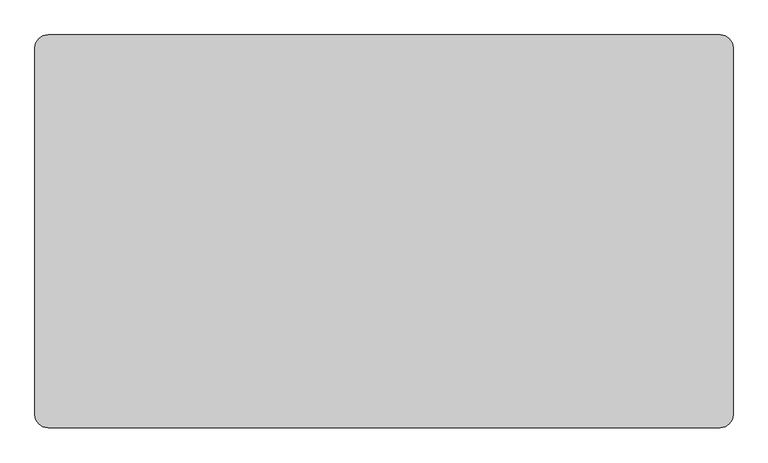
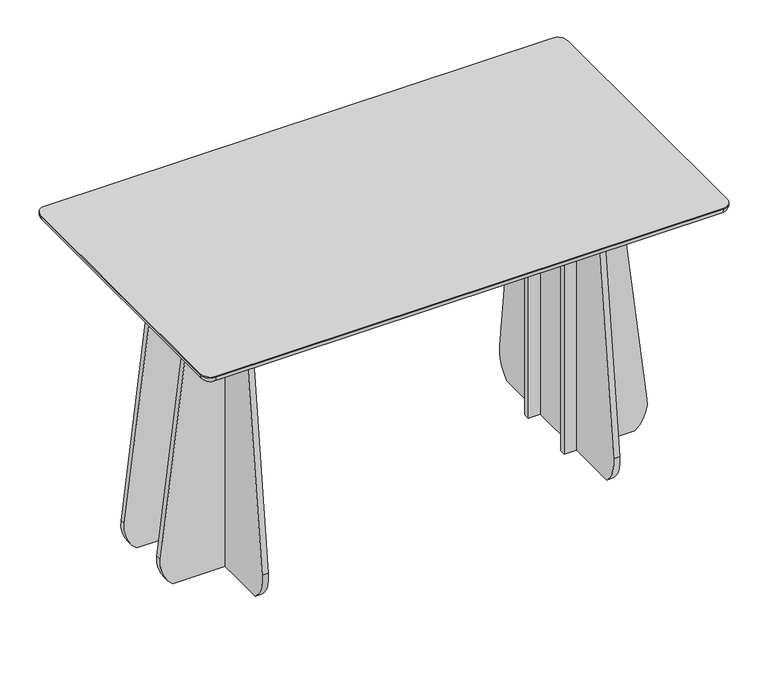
"""IFC4 building model written with IfcOpenShell, lengths in millimetres: furniture geometry, Lundbergs Möbler - Funghi Largo - Table - Rectangular - 160x90 - H90 : Lundbergs Möbler - Funghi Largo - Table - Rectangular - 160x90 - H90."""

from ifc_helpers import new_model, si_unit, point, frame, frame_2d, origin, place, context, project, spatial, polyline, circle_curve, ellipse_curve, trimmed, segment, composite_curve, outline, extrude, source, transform, mapped, element, save
from ifc_brep_helpers import plane_surface, cylinder_surface, revolved_surface, advanced_brep


def furniture_2b31757b(model_context):
    return source(origin(), model_context, "Body", "SolidModel", [
        advanced_brep(
        [(-780.0, 420.0, 876.0), (-800.0, 420.0, 896.0), (-770.0, 450.0, 896.0), (-770.0, 430.0, 876.0), (-780.0, -420.0, 876.0), (-800.0, -420.0, 896.0), (-770.0, -430.0, 876.0), (-770.0, -450.0, 896.0), (770.0, -430.0, 876.0), (770.0, -450.0, 896.0), (780.0, -420.0, 876.0), (800.0, -420.0, 896.0), (780.0, 420.0, 876.0), (800.0, 420.0, 896.0), (770.0, 430.0, 876.0), (770.0, 450.0, 896.0), (770.0, 450.0, 900.0), (-770.0, 450.0, 900.0), (-800.0, 420.0, 900.0), (-800.0, -420.0, 900.0), (-770.0, -450.0, 900.0), (770.0, -450.0, 900.0), (800.0, -420.0, 900.0), (800.0, 420.0, 900.0)],
        [
            (0, 1, circle_curve(frame((-780.0, 420.0, 896.0), z_axis=(0.0, 1.0, 0.0), x_axis=(1.0, 0.0, 0.0)), 20.0)),
            (1, 2, circle_curve(frame((-770.0, 420.0, 896.0), z_axis=(0.0, 0.0, -1.0), x_axis=(0.0, 1.0, 0.0)), 30.0)),
            (2, 3, circle_curve(frame((-770.0, 430.0, 896.0), z_axis=(-1.0, 0.0, 0.0), x_axis=(0.0, -1.0, 0.0)), 20.0)),
            (3, 0, circle_curve(frame((-770.0, 420.0, 876.0), z_axis=(0.0, 0.0, 1.0), x_axis=(0.0, 1.0, 0.0)), 10.0)),
            (0, 4),
            (4, 5, circle_curve(frame((-780.0, -420.0, 896.0), z_axis=(0.0, 1.0, 0.0), x_axis=(1.0, 0.0, 0.0)), 20.0)),
            (5, 1),
            (4, 6, circle_curve(frame((-770.0, -420.0, 876.0), z_axis=(0.0, 0.0, 1.0), x_axis=(-1.0, 0.0, 0.0)), 10.0)),
            (6, 7, circle_curve(frame((-770.0, -430.0, 896.0), z_axis=(-1.0, 0.0, 0.0), x_axis=(0.0, 1.0, 0.0)), 20.0)),
            (7, 5, circle_curve(frame((-770.0, -420.0, 896.0), z_axis=(0.0, 0.0, -1.0), x_axis=(-1.0, 0.0, 0.0)), 30.0)),
            (6, 8),
            (8, 9, circle_curve(frame((770.0, -430.0, 896.0), z_axis=(-1.0, 0.0, 0.0), x_axis=(0.0, 1.0, 0.0)), 20.0)),
            (9, 7),
            (8, 10, circle_curve(frame((770.0, -420.0, 876.0), z_axis=(0.0, 0.0, 1.0), x_axis=(0.0, -1.0, 0.0)), 10.0)),
            (10, 11, circle_curve(frame((780.0, -420.0, 896.0), z_axis=(0.0, -1.0, 0.0), x_axis=(-1.0, 0.0, 0.0)), 20.0)),
            (11, 9, circle_curve(frame((770.0, -420.0, 896.0), z_axis=(0.0, 0.0, -1.0), x_axis=(0.0, -1.0, 0.0)), 30.0)),
            (10, 12),
            (12, 13, circle_curve(frame((780.0, 420.0, 896.0), z_axis=(0.0, -1.0, 0.0), x_axis=(-1.0, 0.0, 0.0)), 20.0)),
            (13, 11),
            (12, 14, circle_curve(frame((770.0, 420.0, 876.0), z_axis=(0.0, 0.0, 1.0), x_axis=(1.0, 0.0, 0.0)), 10.0)),
            (14, 15, circle_curve(frame((770.0, 430.0, 896.0), z_axis=(1.0, 0.0, 0.0), x_axis=(0.0, -1.0, 0.0)), 20.0)),
            (15, 13, circle_curve(frame((770.0, 420.0, 896.0), z_axis=(0.0, 0.0, -1.0), x_axis=(1.0, 0.0, 0.0)), 30.0)),
            (2, 15),
            (14, 3),
            (16, 17),
            (17, 18, circle_curve(frame((-770.0, 420.0, 900.0), z_axis=(0.0, 0.0, 1.0), x_axis=(0.0, 1.0, 0.0)), 30.0)),
            (18, 19),
            (19, 20, circle_curve(frame((-770.0, -420.0, 900.0), z_axis=(0.0, 0.0, 1.0), x_axis=(0.0, 1.0, 0.0)), 30.0)),
            (20, 21),
            (21, 22, circle_curve(frame((770.0, -420.0, 900.0), z_axis=(0.0, 0.0, 1.0), x_axis=(0.0, 1.0, 0.0)), 30.0)),
            (22, 23),
            (23, 16, circle_curve(frame((770.0, 420.0, 900.0), z_axis=(0.0, 0.0, 1.0), x_axis=(0.0, 1.0, 0.0)), 30.0)),
            (16, 15),
            (2, 17),
            (1, 18),
            (5, 19),
            (7, 20),
            (9, 21),
            (11, 22),
            (13, 23),
        ],
        [
            revolved_surface(trimmed(ellipse_curve(frame((-770.0, 430.0, 896.0), z_axis=(1.0, 0.0, 0.0), x_axis=(0.0, -1.0, 0.0)), 20.0, 20.0), [point((-770.0, 430.0, 876.0))], [point((-770.0, 450.0, 896.0))], True, "CARTESIAN"), (-770.0, 420.0, 170.0), (0.0, 0.0, 1.0)),
            cylinder_surface(frame((-780.0, 420.0, 896.0), z_axis=(0.0, -1.0, 0.0), x_axis=(1.0, 0.0, 0.0)), 20.0),
            revolved_surface(trimmed(ellipse_curve(frame((-780.0, -420.0, 896.0), z_axis=(0.0, 1.0, 0.0), x_axis=(1.0, 0.0, 0.0)), 20.0, 20.0), [point((-780.0, -420.0, 876.0))], [point((-800.0, -420.0, 896.0))], True, "CARTESIAN"), (-770.0, -420.0, 170.0), (0.0, 0.0, 1.0)),
            cylinder_surface(frame((-770.0, -430.0, 896.0), z_axis=(1.0, 0.0, 0.0), x_axis=(0.0, 1.0, 0.0)), 20.0),
            revolved_surface(trimmed(ellipse_curve(frame((770.0, -430.0, 896.0), z_axis=(-1.0, 0.0, 0.0), x_axis=(0.0, 1.0, 0.0)), 20.0, 20.0), [point((770.0, -430.0, 876.0))], [point((770.0, -450.0, 896.0))], True, "CARTESIAN"), (770.0, -420.0, 170.0), (0.0, 0.0, 1.0)),
            cylinder_surface(frame((780.0, -420.0, 896.0), z_axis=(0.0, 1.0, 0.0), x_axis=(-1.0, 0.0, 0.0)), 20.0),
            revolved_surface(trimmed(ellipse_curve(frame((780.0, 420.0, 896.0), z_axis=(0.0, -1.0, 0.0), x_axis=(-1.0, 0.0, 0.0)), 20.0, 20.0), [point((780.0, 420.0, 876.0))], [point((800.0, 420.0, 896.0))], True, "CARTESIAN"), (770.0, 420.0, 170.0), (0.0, 0.0, 1.0)),
            cylinder_surface(frame((770.0, 430.0, 896.0), z_axis=(-1.0, 0.0, 0.0), x_axis=(0.0, -1.0, 0.0)), 20.0),
            plane_surface(frame((-770.0, 450.0, 900.0), z_axis=(0.0, 0.0, 1.0), x_axis=(-1.0, 0.0, 0.0))),
            plane_surface(frame((-770.0, 450.0, 876.0), z_axis=(0.0, 0.0, -1.0), x_axis=(1.0, 0.0, 0.0))),
            plane_surface(frame((770.0, 450.0, 900.0), z_axis=(0.0, 1.0, 0.0), x_axis=(0.0, 0.0, -1.0))),
            cylinder_surface(frame((-770.0, 420.0, 876.0), z_axis=(0.0, 0.0, 1.0), x_axis=(0.0, 1.0, 0.0)), 30.0),
            plane_surface(frame((-800.0, 420.0, 900.0), z_axis=(-1.0, 0.0, 0.0), x_axis=(0.0, 0.0, -1.0))),
            cylinder_surface(frame((-770.0, -420.0, 876.0), z_axis=(0.0, 0.0, 1.0), x_axis=(0.0, 1.0, 0.0)), 30.0),
            plane_surface(frame((-770.0, -450.0, 900.0), z_axis=(0.0, -1.0, 0.0), x_axis=(0.0, 0.0, -1.0))),
            cylinder_surface(frame((770.0, -420.0, 876.0), z_axis=(0.0, 0.0, 1.0), x_axis=(0.0, 1.0, 0.0)), 30.0),
            plane_surface(frame((800.0, -420.0, 900.0), z_axis=(1.0, 0.0, 0.0), x_axis=(0.0, 0.0, -1.0))),
            cylinder_surface(frame((770.0, 420.0, 876.0), z_axis=(0.0, 0.0, 1.0), x_axis=(0.0, 1.0, 0.0)), 30.0),
        ],
        [
            (0, [[1, 2, 3, 4]]),
            (1, [[-1, 5, 6, 7]]),
            (2, [[-6, 8, 9, 10]]),
            (3, [[-9, 11, 12, 13]]),
            (4, [[-12, 14, 15, 16]]),
            (5, [[-15, 17, 18, 19]]),
            (6, [[-18, 20, 21, 22]]),
            (7, [[-3, 23, -21, 24]]),
            (8, [[25, 26, 27, 28, 29, 30, 31, 32]]),
            (9, [[-4, -24, -20, -17, -14, -11, -8, -5]]),
            (10, [[-25, 33, -23, 34]]),
            (11, [[-26, -34, -2, 35]]),
            (12, [[-27, -35, -7, 36]]),
            (13, [[-28, -36, -10, 37]]),
            (14, [[-29, -37, -13, 38]]),
            (15, [[-30, -38, -16, 39]]),
            (16, [[-31, -39, -19, 40]]),
            (17, [[-32, -40, -22, -33]]),
        ],
    ),
        extrude(outline(composite_curve([segment(polyline([(581.25, 180.0), (617.25, 180.0)]), True, "CONTINUOUS"), segment(trimmed(circle_curve(frame_2d((617.25, 178.0)), 2.0), [point((617.25, 180.0))], [point((619.25, 178.0))], False, "CARTESIAN"), True, "CONTINUOUS"), segment(polyline([(619.25, 178.0), (619.25, -178.0)]), True, "CONTINUOUS"), segment(trimmed(circle_curve(frame_2d((617.25, -178.0)), 2.0), [point((619.25, -178.0))], [point((617.25, -180.0))], False, "CARTESIAN"), True, "CONTINUOUS"), segment(polyline([(617.25, -180.0), (581.25, -180.0)]), True, "CONTINUOUS"), segment(trimmed(circle_curve(frame_2d((581.25, -178.0)), 2.0), [point((581.25, -180.0))], [point((579.25, -178.0))], False, "CARTESIAN"), True, "CONTINUOUS"), segment(polyline([(579.25, -178.0), (579.25, 178.0)]), True, "CONTINUOUS"), segment(trimmed(circle_curve(frame_2d((581.25, 178.0)), 2.0), [point((579.25, 178.0))], [point((581.25, 180.0))], False, "CARTESIAN"), True, "CONTINUOUS")], self_intersect=False)), frame((0.0, 0.0, 856.0), z_axis=(0.0, 0.0, 1.0), x_axis=(1.0, 0.0, 0.0)), (0.0, 0.0, 1.0), 20.0),
        extrude(outline(composite_curve([segment(polyline([(461.25, 180.0), (551.25, 180.0)]), True, "CONTINUOUS"), segment(trimmed(circle_curve(frame_2d((551.25, 176.5)), 3.5), [point((551.25, 180.0))], [point((554.75, 176.5))], False, "CARTESIAN"), True, "CONTINUOUS"), segment(polyline([(554.75, 176.5), (554.75, 143.5)]), True, "CONTINUOUS"), segment(trimmed(circle_curve(frame_2d((551.25, 143.5)), 3.5), [point((554.75, 143.5))], [point((551.25, 140.0))], False, "CARTESIAN"), True, "CONTINUOUS"), segment(polyline([(551.25, 140.0), (461.25, 140.0)]), True, "CONTINUOUS"), segment(trimmed(circle_curve(frame_2d((461.25, 143.5)), 3.5), [point((461.25, 140.0))], [point((457.75, 143.5))], False, "CARTESIAN"), True, "CONTINUOUS"), segment(polyline([(457.75, 143.5), (457.75, 176.5)]), True, "CONTINUOUS"), segment(trimmed(circle_curve(frame_2d((461.25, 176.5)), 3.5), [point((457.75, 176.5))], [point((461.25, 180.0))], False, "CARTESIAN"), True, "CONTINUOUS")], self_intersect=False)), frame((0.0, 0.0, 856.0), z_axis=(0.0, 0.0, 1.0), x_axis=(1.0, 0.0, 0.0)), (0.0, 0.0, 1.0), 20.0),
        extrude(outline(composite_curve([segment(polyline([(461.25, -140.0), (551.25, -140.0)]), True, "CONTINUOUS"), segment(trimmed(circle_curve(frame_2d((551.25, -143.5)), 3.5), [point((551.25, -140.0))], [point((554.75, -143.5))], False, "CARTESIAN"), True, "CONTINUOUS"), segment(polyline([(554.75, -143.5), (554.75, -176.5)]), True, "CONTINUOUS"), segment(trimmed(circle_curve(frame_2d((551.25, -176.5)), 3.5), [point((554.75, -176.5))], [point((551.25, -180.0))], False, "CARTESIAN"), True, "CONTINUOUS"), segment(polyline([(551.25, -180.0), (461.25, -180.0)]), True, "CONTINUOUS"), segment(trimmed(circle_curve(frame_2d((461.25, -176.5)), 3.5), [point((461.25, -180.0))], [point((457.75, -176.5))], False, "CARTESIAN"), True, "CONTINUOUS"), segment(polyline([(457.75, -176.5), (457.75, -143.5)]), True, "CONTINUOUS"), segment(trimmed(circle_curve(frame_2d((461.25, -143.5)), 3.5), [point((457.75, -143.5))], [point((461.25, -140.0))], False, "CARTESIAN"), True, "CONTINUOUS")], self_intersect=False)), frame((0.0, 0.0, 856.0), z_axis=(0.0, 0.0, 1.0), x_axis=(1.0, 0.0, 0.0)), (0.0, 0.0, 1.0), 20.0),
        extrude(outline(composite_curve([segment(trimmed(circle_curve(frame_2d((200.0, 78.0350603)), 100.0), [point((299.2807726, 90.0070355))], [point((262.5342255, 0.0))], False, "CARTESIAN"), True, "CONTINUOUS"), segment(polyline([(262.5342255, 0.0), (-262.5342255, 0.0)]), True, "CONTINUOUS"), segment(trimmed(circle_curve(frame_2d((-200.0, 78.0350603)), 100.0), [point((-262.5342255, 0.0))], [point((-299.2807726, 90.0070355))], False, "CARTESIAN"), True, "CONTINUOUS"), segment(polyline([(-299.2807726, 90.0070355), (-204.500202, 876.0), (204.500202, 876.0), (299.2807726, 90.0070355)]), True, "CONTINUOUS")], self_intersect=False)), frame((524.25, 0.0, 0.0), z_axis=(1.0, 0.0, 0.0), x_axis=(0.0, 1.0, 0.0)), (0.0, 0.0, 1.0), 18.5),
        extrude(outline(composite_curve([segment(polyline([(90.0070355, 738.5307726), (876.0, 643.750202), (876.0, 487.25), (0.0, 487.25), (0.0, 701.7842255)]), True, "CONTINUOUS"), segment(trimmed(circle_curve(frame_2d((78.0350603, 639.25)), 100.0), [point((0.0, 701.7842255))], [point((90.0070355, 738.5307726))], False, "CARTESIAN"), True, "CONTINUOUS")], self_intersect=False)), frame((0.0, 85.5, 0.0), z_axis=(0.0, 1.0, 0.0), x_axis=(0.0, 0.0, 1.0)), (0.0, 0.0, 1.0), 18.0),
        extrude(outline(composite_curve([segment(polyline([(90.0070355, 738.5307726), (876.0, 643.750202), (876.0, 487.25), (0.0, 487.25), (0.0, 701.7842255)]), True, "CONTINUOUS"), segment(trimmed(circle_curve(frame_2d((78.0350603, 639.25)), 100.0), [point((0.0, 701.7842255))], [point((90.0070355, 738.5307726))], False, "CARTESIAN"), True, "CONTINUOUS")], self_intersect=False)), frame((0.0, -103.5, 0.0), z_axis=(0.0, 1.0, 0.0), x_axis=(0.0, 0.0, 1.0)), (0.0, 0.0, 1.0), 18.0),
        extrude(outline(composite_curve([segment(trimmed(circle_curve(frame_2d((-581.25, 178.0)), 2.0), [point((-581.25, 180.0))], [point((-579.25, 178.0))], False, "CARTESIAN"), True, "CONTINUOUS"), segment(polyline([(-579.25, 178.0), (-579.25, -178.0)]), True, "CONTINUOUS"), segment(trimmed(circle_curve(frame_2d((-581.25, -178.0)), 2.0), [point((-579.25, -178.0))], [point((-581.25, -180.0))], False, "CARTESIAN"), True, "CONTINUOUS"), segment(polyline([(-581.25, -180.0), (-617.25, -180.0)]), True, "CONTINUOUS"), segment(trimmed(circle_curve(frame_2d((-617.25, -178.0)), 2.0), [point((-617.25, -180.0))], [point((-619.25, -178.0))], False, "CARTESIAN"), True, "CONTINUOUS"), segment(polyline([(-619.25, -178.0), (-619.25, 178.0)]), True, "CONTINUOUS"), segment(trimmed(circle_curve(frame_2d((-617.25, 178.0)), 2.0), [point((-619.25, 178.0))], [point((-617.25, 180.0))], False, "CARTESIAN"), True, "CONTINUOUS"), segment(polyline([(-617.25, 180.0), (-581.25, 180.0)]), True, "CONTINUOUS")], self_intersect=False)), frame((0.0, 0.0, 856.0), z_axis=(0.0, 0.0, 1.0), x_axis=(1.0, 0.0, 0.0)), (0.0, 0.0, 1.0), 20.0),
        extrude(outline(composite_curve([segment(trimmed(circle_curve(frame_2d((-461.25, 176.5)), 3.5), [point((-461.25, 180.0))], [point((-457.75, 176.5))], False, "CARTESIAN"), True, "CONTINUOUS"), segment(polyline([(-457.75, 176.5), (-457.75, 143.5)]), True, "CONTINUOUS"), segment(trimmed(circle_curve(frame_2d((-461.25, 143.5)), 3.5), [point((-457.75, 143.5))], [point((-461.25, 140.0))], False, "CARTESIAN"), True, "CONTINUOUS"), segment(polyline([(-461.25, 140.0), (-551.25, 140.0)]), True, "CONTINUOUS"), segment(trimmed(circle_curve(frame_2d((-551.25, 143.5)), 3.5), [point((-551.25, 140.0))], [point((-554.75, 143.5))], False, "CARTESIAN"), True, "CONTINUOUS"), segment(polyline([(-554.75, 143.5), (-554.75, 176.5)]), True, "CONTINUOUS"), segment(trimmed(circle_curve(frame_2d((-551.25, 176.5)), 3.5), [point((-554.75, 176.5))], [point((-551.25, 180.0))], False, "CARTESIAN"), True, "CONTINUOUS"), segment(polyline([(-551.25, 180.0), (-461.25, 180.0)]), True, "CONTINUOUS")], self_intersect=False)), frame((0.0, 0.0, 856.0), z_axis=(0.0, 0.0, 1.0), x_axis=(1.0, 0.0, 0.0)), (0.0, 0.0, 1.0), 20.0),
        extrude(outline(composite_curve([segment(trimmed(circle_curve(frame_2d((-461.25, -143.5)), 3.5), [point((-461.25, -140.0))], [point((-457.75, -143.5))], False, "CARTESIAN"), True, "CONTINUOUS"), segment(polyline([(-457.75, -143.5), (-457.75, -176.5)]), True, "CONTINUOUS"), segment(trimmed(circle_curve(frame_2d((-461.25, -176.5)), 3.5), [point((-457.75, -176.5))], [point((-461.25, -180.0))], False, "CARTESIAN"), True, "CONTINUOUS"), segment(polyline([(-461.25, -180.0), (-551.25, -180.0)]), True, "CONTINUOUS"), segment(trimmed(circle_curve(frame_2d((-551.25, -176.5)), 3.5), [point((-551.25, -180.0))], [point((-554.75, -176.5))], False, "CARTESIAN"), True, "CONTINUOUS"), segment(polyline([(-554.75, -176.5), (-554.75, -143.5)]), True, "CONTINUOUS"), segment(trimmed(circle_curve(frame_2d((-551.25, -143.5)), 3.5), [point((-554.75, -143.5))], [point((-551.25, -140.0))], False, "CARTESIAN"), True, "CONTINUOUS"), segment(polyline([(-551.25, -140.0), (-461.25, -140.0)]), True, "CONTINUOUS")], self_intersect=False)), frame((0.0, 0.0, 856.0), z_axis=(0.0, 0.0, 1.0), x_axis=(1.0, 0.0, 0.0)), (0.0, 0.0, 1.0), 20.0),
        extrude(outline(composite_curve([segment(trimmed(circle_curve(frame_2d((200.0, 78.0350603)), 100.0), [point((299.2807726, 90.0070355))], [point((262.5342255, 0.0))], False, "CARTESIAN"), True, "CONTINUOUS"), segment(polyline([(262.5342255, 0.0), (-262.5342255, 0.0)]), True, "CONTINUOUS"), segment(trimmed(circle_curve(frame_2d((-200.0, 78.0350603)), 100.0), [point((-262.5342255, 0.0))], [point((-299.2807726, 90.0070355))], False, "CARTESIAN"), True, "CONTINUOUS"), segment(polyline([(-299.2807726, 90.0070355), (-204.500202, 876.0), (204.500202, 876.0), (299.2807726, 90.0070355)]), True, "CONTINUOUS")], self_intersect=False)), frame((-542.75, 0.0, 0.0), z_axis=(1.0, 0.0, 0.0), x_axis=(0.0, 1.0, 0.0)), (0.0, 0.0, 1.0), 18.5),
        extrude(outline(composite_curve([segment(trimmed(circle_curve(frame_2d((78.0350603, -639.25)), 100.0), [point((90.0070355, -738.5307726))], [point((0.0, -701.7842255))], False, "CARTESIAN"), True, "CONTINUOUS"), segment(polyline([(0.0, -701.7842255), (0.0, -487.25), (876.0, -487.25), (876.0, -643.750202), (90.0070355, -738.5307726)]), True, "CONTINUOUS")], self_intersect=False)), frame((0.0, 85.5, 0.0), z_axis=(0.0, 1.0, 0.0), x_axis=(0.0, 0.0, 1.0)), (0.0, 0.0, 1.0), 18.0),
        extrude(outline(composite_curve([segment(trimmed(circle_curve(frame_2d((78.0350603, -639.25)), 100.0), [point((90.0070355, -738.5307726))], [point((0.0, -701.7842255))], False, "CARTESIAN"), True, "CONTINUOUS"), segment(polyline([(0.0, -701.7842255), (0.0, -487.25), (876.0, -487.25), (876.0, -643.750202), (90.0070355, -738.5307726)]), True, "CONTINUOUS")], self_intersect=False)), frame((0.0, -103.5, 0.0), z_axis=(0.0, 1.0, 0.0), x_axis=(0.0, 0.0, 1.0)), (0.0, 0.0, 1.0), 18.0),
    ])


if __name__ == "__main__":
    model = new_model("IFC4")
    model_context = context("Model", 3, world=origin())
    ifc_project = project(units=[si_unit("LENGTHUNIT", "METRE", prefix="MILLI")], contexts=[model_context])
    site = spatial("IfcSite", under=ifc_project)
    building = spatial("IfcBuilding", under=site)
    placement = place(None, origin())
    furniture_shape = furniture_2b31757b(model_context)
    element("IfcFurniture", 1, ObjectType="Lundbergs Möbler - Funghi Largo - Table - Rectangular - 160x90 - H90 : Lundbergs Möbler - Funghi Largo - Table - Rectangular - 160x90 - H90", at=placement, inside=building, context=model_context, shape_type="MappedRepresentation", body=[
        mapped(furniture_shape, transform((0.0, 0.0, 0.0), x_axis=(1.0, 0.0, 0.0), y_axis=(0.0, 1.0, 0.0), z_axis=(0.0, 0.0, 1.0))),
    ])
    save(model, "model.ifc")
